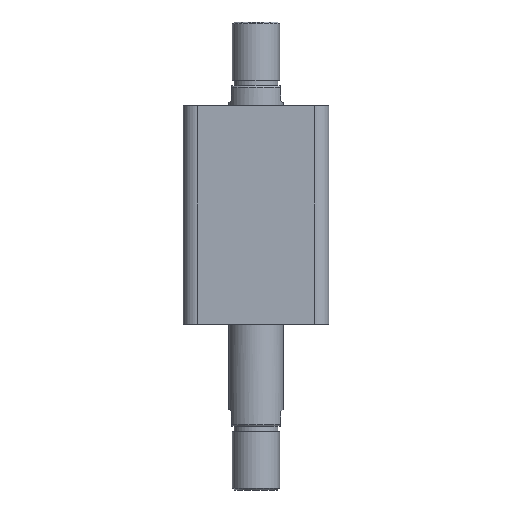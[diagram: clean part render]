
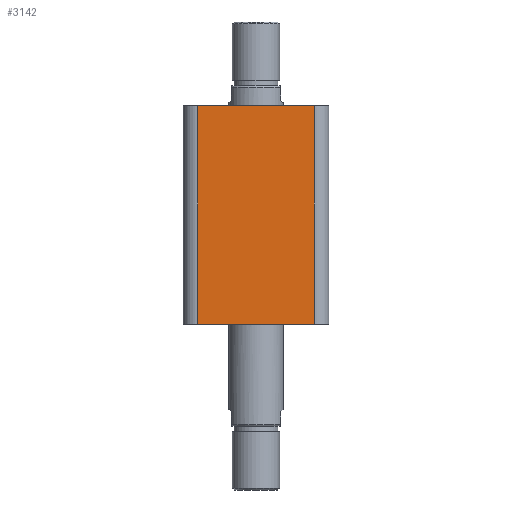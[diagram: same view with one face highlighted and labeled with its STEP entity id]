
A CAD part, front view. The second image highlights one B-rep face of the part: STEP entity #3142.
In plain terms, the highlighted planar face has unit normal (0, -1, 0).
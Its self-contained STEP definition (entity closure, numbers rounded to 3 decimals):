
#408 = EDGE_CURVE ( 'NONE', #1568, #1569, #3047, .T. ) ;
#409 = EDGE_CURVE ( 'NONE', #2149, #1568, #3048, .T. ) ;
#410 = EDGE_CURVE ( 'NONE', #1547, #2149, #3051, .T. ) ;
#411 = EDGE_CURVE ( 'NONE', #1547, #1569, #3053, .T. ) ;
#735 = AXIS2_PLACEMENT_3D ( 'NONE', #1326, #1330, #1331 ) ;
#878 = CARTESIAN_POINT ( 'NONE',  ( -32., -40., 120. ) ) ;
#897 = CARTESIAN_POINT ( 'NONE',  ( 32., -40., 0. ) ) ;
#898 = CARTESIAN_POINT ( 'NONE',  ( 32., -40., 120. ) ) ;
#1117 = CARTESIAN_POINT ( 'NONE',  ( -32., -40., 0. ) ) ;
#1326 = CARTESIAN_POINT ( 'NONE',  ( -40., -40., 120. ) ) ;
#1328 = PLANE ( 'NONE',  #735 ) ;
#1330 = DIRECTION ( 'NONE',  ( 0., 1., 0. ) ) ;
#1331 = DIRECTION ( 'NONE',  ( 0., 0., 1. ) ) ;
#1547 = VERTEX_POINT ( 'NONE', #878 ) ;
#1568 = VERTEX_POINT ( 'NONE', #897 ) ;
#1569 = VERTEX_POINT ( 'NONE', #898 ) ;
#1756 = DIRECTION ( 'NONE',  ( 0., 0., 1. ) ) ;
#1772 = CARTESIAN_POINT ( 'NONE',  ( -40., -40., 0. ) ) ;
#1773 = CARTESIAN_POINT ( 'NONE',  ( 32., -40., 120. ) ) ;
#1777 = DIRECTION ( 'NONE',  ( 1., 0., 0. ) ) ;
#1778 = CARTESIAN_POINT ( 'NONE',  ( -32., -40., 120. ) ) ;
#1779 = DIRECTION ( 'NONE',  ( 0., 0., -1. ) ) ;
#1780 = CARTESIAN_POINT ( 'NONE',  ( -40., -40., 120. ) ) ;
#1781 = DIRECTION ( 'NONE',  ( 1., 0., 0. ) ) ;
#2149 = VERTEX_POINT ( 'NONE', #1117 ) ;
#2563 = FACE_OUTER_BOUND ( 'NONE', #2799, .T. ) ;
#2799 = EDGE_LOOP ( 'NONE', ( #3200, #3201, #3202, #3203 ) ) ;
#3047 = LINE ( 'NONE', #1773, #3050 ) ;
#3048 = LINE ( 'NONE', #1772, #3052 ) ;
#3050 = VECTOR ( 'NONE', #1756, 1000. ) ;
#3051 = LINE ( 'NONE', #1778, #3054 ) ;
#3052 = VECTOR ( 'NONE', #1777, 1000. ) ;
#3053 = LINE ( 'NONE', #1780, #3056 ) ;
#3054 = VECTOR ( 'NONE', #1779, 1000. ) ;
#3056 = VECTOR ( 'NONE', #1781, 1000. ) ;
#3142 = ADVANCED_FACE ( 'NONE', ( #2563 ), #1328, .F. ) ;
#3200 = ORIENTED_EDGE ( 'NONE', *, *, #411, .F. ) ;
#3201 = ORIENTED_EDGE ( 'NONE', *, *, #410, .T. ) ;
#3202 = ORIENTED_EDGE ( 'NONE', *, *, #409, .T. ) ;
#3203 = ORIENTED_EDGE ( 'NONE', *, *, #408, .T. ) ;
